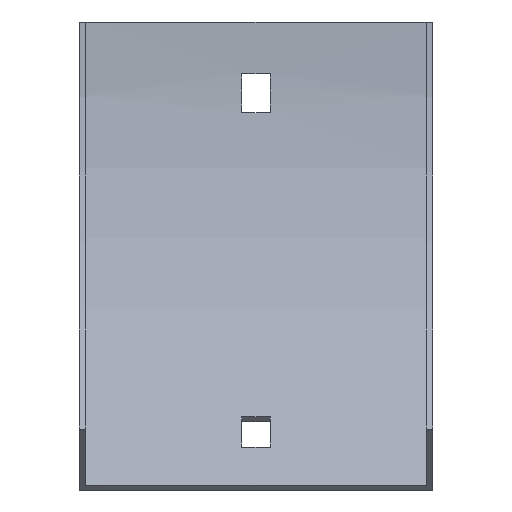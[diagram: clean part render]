
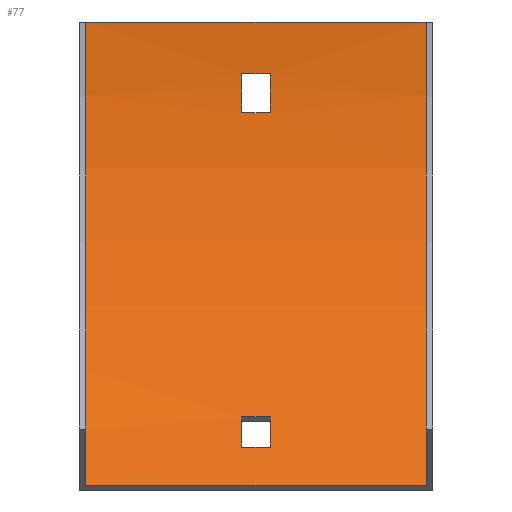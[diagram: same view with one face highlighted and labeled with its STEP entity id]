
A CAD part, front view. The second image highlights one B-rep face of the part: STEP entity #77.
In plain terms, the highlighted cylindrical face has radius 152 mm (diameter 304 mm), a partial arc.
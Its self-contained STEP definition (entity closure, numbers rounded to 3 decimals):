
#11 = EDGE_CURVE ( 'NONE', #442, #173, #510, .T. ) ;
#15 = ORIENTED_EDGE ( 'NONE', *, *, #387, .T. ) ;
#20 = CARTESIAN_POINT ( 'NONE',  ( 3.25, -1.974, -12. ) ) ;
#28 = ORIENTED_EDGE ( 'NONE', *, *, #287, .T. ) ;
#41 = ORIENTED_EDGE ( 'NONE', *, *, #359, .T. ) ;
#55 = VECTOR ( 'NONE', #165, 1000. ) ;
#62 = EDGE_LOOP ( 'NONE', ( #126, #105, #422, #276 ) ) ;
#73 = VERTEX_POINT ( 'NONE', #271 ) ;
#74 = CIRCLE ( 'NONE', #414, 152. ) ;
#77 = ADVANCED_FACE ( 'NONE', ( #457, #412, #364 ), #554, .F. ) ;
#78 = DIRECTION ( 'NONE',  ( 0., 0., -1. ) ) ;
#80 = DIRECTION ( 'NONE',  ( -1., 0., 0. ) ) ;
#89 = DIRECTION ( 'NONE',  ( 0., 0., -1. ) ) ;
#91 = VERTEX_POINT ( 'NONE', #184 ) ;
#102 = AXIS2_PLACEMENT_3D ( 'NONE', #357, #461, #547 ) ;
#105 = ORIENTED_EDGE ( 'NONE', *, *, #577, .F. ) ;
#108 = ORIENTED_EDGE ( 'NONE', *, *, #325, .T. ) ;
#118 = CARTESIAN_POINT ( 'NONE',  ( 3.25, -153.5, 0. ) ) ;
#126 = ORIENTED_EDGE ( 'NONE', *, *, #550, .F. ) ;
#132 = CIRCLE ( 'NONE', #102, 152. ) ;
#134 = AXIS2_PLACEMENT_3D ( 'NONE', #118, #491, #78 ) ;
#136 = CARTESIAN_POINT ( 'NONE',  ( 41., -153.5, 0. ) ) ;
#154 = CARTESIAN_POINT ( 'NONE',  ( -3.25, -37.87, -98.659 ) ) ;
#155 = VERTEX_POINT ( 'NONE', #154 ) ;
#159 = LINE ( 'NONE', #434, #505 ) ;
#160 = CARTESIAN_POINT ( 'NONE',  ( 41., -1.974, -12. ) ) ;
#163 = AXIS2_PLACEMENT_3D ( 'NONE', #303, #581, #590 ) ;
#164 = CIRCLE ( 'NONE', #395, 152. ) ;
#165 = DIRECTION ( 'NONE',  ( -1., 0., 0. ) ) ;
#173 = VERTEX_POINT ( 'NONE', #198 ) ;
#174 = DIRECTION ( 'NONE',  ( 1., 0., 0. ) ) ;
#183 = CARTESIAN_POINT ( 'NONE',  ( 39.5, -153.5, 0. ) ) ;
#184 = CARTESIAN_POINT ( 'NONE',  ( 39.5, -1.5, 0. ) ) ;
#198 = CARTESIAN_POINT ( 'NONE',  ( -39.5, -46.02, -107.48 ) ) ;
#206 = VECTOR ( 'NONE', #265, 1000. ) ;
#211 = DIRECTION ( 'NONE',  ( 1., 0., 0. ) ) ;
#215 = ORIENTED_EDGE ( 'NONE', *, *, #11, .F. ) ;
#218 = CARTESIAN_POINT ( 'NONE',  ( 39.5, -46.02, -107.48 ) ) ;
#220 = VECTOR ( 'NONE', #80, 1000. ) ;
#225 = LINE ( 'NONE', #415, #206 ) ;
#254 = CARTESIAN_POINT ( 'NONE',  ( 3.25, -37.87, -98.659 ) ) ;
#256 = LINE ( 'NONE', #346, #585 ) ;
#261 = EDGE_LOOP ( 'NONE', ( #28, #435, #41, #108 ) ) ;
#262 = EDGE_CURVE ( 'NONE', #394, #330, #159, .T. ) ;
#265 = DIRECTION ( 'NONE',  ( -1., 0., 0. ) ) ;
#266 = DIRECTION ( 'NONE',  ( -1., 0., 0. ) ) ;
#267 = VECTOR ( 'NONE', #266, 1000. ) ;
#271 = CARTESIAN_POINT ( 'NONE',  ( 3.25, -32.201, -91.6 ) ) ;
#273 = DIRECTION ( 'NONE',  ( -1., 0., 0. ) ) ;
#275 = CARTESIAN_POINT ( 'NONE',  ( -3.25, -2.958, -21. ) ) ;
#276 = ORIENTED_EDGE ( 'NONE', *, *, #262, .F. ) ;
#280 = ORIENTED_EDGE ( 'NONE', *, *, #399, .F. ) ;
#287 = EDGE_CURVE ( 'NONE', #575, #155, #493, .T. ) ;
#293 = CARTESIAN_POINT ( 'NONE',  ( 41., -37.87, -98.659 ) ) ;
#294 = DIRECTION ( 'NONE',  ( 0., 0., 1. ) ) ;
#295 = VERTEX_POINT ( 'NONE', #446 ) ;
#302 = VERTEX_POINT ( 'NONE', #478 ) ;
#303 = CARTESIAN_POINT ( 'NONE',  ( 3.25, -153.5, 0. ) ) ;
#325 = EDGE_CURVE ( 'NONE', #73, #575, #482, .T. ) ;
#330 = VERTEX_POINT ( 'NONE', #436 ) ;
#334 = ORIENTED_EDGE ( 'NONE', *, *, #445, .T. ) ;
#346 = CARTESIAN_POINT ( 'NONE',  ( 41., -32.201, -91.6 ) ) ;
#349 = CARTESIAN_POINT ( 'NONE',  ( -3.25, -153.5, 0. ) ) ;
#354 = VERTEX_POINT ( 'NONE', #487 ) ;
#357 = CARTESIAN_POINT ( 'NONE',  ( -39.5, -153.5, 0. ) ) ;
#359 = EDGE_CURVE ( 'NONE', #295, #73, #256, .T. ) ;
#364 = FACE_BOUND ( 'NONE', #261, .T. ) ;
#366 = DIRECTION ( 'NONE',  ( 1., 0., 0. ) ) ;
#387 = EDGE_CURVE ( 'NONE', #442, #91, #549, .T. ) ;
#394 = VERTEX_POINT ( 'NONE', #275 ) ;
#395 = AXIS2_PLACEMENT_3D ( 'NONE', #349, #488, #294 ) ;
#399 = EDGE_CURVE ( 'NONE', #173, #354, #132, .T. ) ;
#408 = CARTESIAN_POINT ( 'NONE',  ( -3.25, -153.5, 0. ) ) ;
#412 = FACE_OUTER_BOUND ( 'NONE', #463, .T. ) ;
#414 = AXIS2_PLACEMENT_3D ( 'NONE', #408, #174, #89 ) ;
#415 = CARTESIAN_POINT ( 'NONE',  ( 39.5, -1.5, 0. ) ) ;
#422 = ORIENTED_EDGE ( 'NONE', *, *, #593, .F. ) ;
#434 = CARTESIAN_POINT ( 'NONE',  ( 41., -2.958, -21. ) ) ;
#435 = ORIENTED_EDGE ( 'NONE', *, *, #467, .T. ) ;
#436 = CARTESIAN_POINT ( 'NONE',  ( 3.25, -2.958, -21. ) ) ;
#442 = VERTEX_POINT ( 'NONE', #501 ) ;
#445 = EDGE_CURVE ( 'NONE', #91, #354, #225, .T. ) ;
#446 = CARTESIAN_POINT ( 'NONE',  ( -3.25, -32.201, -91.6 ) ) ;
#457 = FACE_BOUND ( 'NONE', #62, .T. ) ;
#459 = DIRECTION ( 'NONE',  ( 0., 0., 1. ) ) ;
#461 = DIRECTION ( 'NONE',  ( 1., 0., 0. ) ) ;
#463 = EDGE_LOOP ( 'NONE', ( #280, #215, #15, #334 ) ) ;
#467 = EDGE_CURVE ( 'NONE', #155, #295, #74, .T. ) ;
#478 = CARTESIAN_POINT ( 'NONE',  ( -3.25, -1.974, -12. ) ) ;
#481 = AXIS2_PLACEMENT_3D ( 'NONE', #136, #273, #459 ) ;
#482 = CIRCLE ( 'NONE', #163, 152. ) ;
#487 = CARTESIAN_POINT ( 'NONE',  ( -39.5, -1.5, 0. ) ) ;
#488 = DIRECTION ( 'NONE',  ( -1., 0., 0. ) ) ;
#491 = DIRECTION ( 'NONE',  ( 1., 0., 0. ) ) ;
#493 = LINE ( 'NONE', #293, #220 ) ;
#497 = DIRECTION ( 'NONE',  ( 0., 0., 1. ) ) ;
#501 = CARTESIAN_POINT ( 'NONE',  ( 39.5, -46.02, -107.48 ) ) ;
#505 = VECTOR ( 'NONE', #211, 1000. ) ;
#510 = LINE ( 'NONE', #218, #267 ) ;
#518 = AXIS2_PLACEMENT_3D ( 'NONE', #183, #366, #497 ) ;
#520 = VERTEX_POINT ( 'NONE', #20 ) ;
#533 = DIRECTION ( 'NONE',  ( 1., 0., 0. ) ) ;
#537 = LINE ( 'NONE', #160, #55 ) ;
#547 = DIRECTION ( 'NONE',  ( 0., 0., 1. ) ) ;
#549 = CIRCLE ( 'NONE', #518, 152. ) ;
#550 = EDGE_CURVE ( 'NONE', #302, #394, #164, .T. ) ;
#552 = CIRCLE ( 'NONE', #134, 152. ) ;
#554 = CYLINDRICAL_SURFACE ( 'NONE', #481, 152. ) ;
#575 = VERTEX_POINT ( 'NONE', #254 ) ;
#577 = EDGE_CURVE ( 'NONE', #520, #302, #537, .T. ) ;
#581 = DIRECTION ( 'NONE',  ( -1., 0., 0. ) ) ;
#585 = VECTOR ( 'NONE', #533, 1000. ) ;
#590 = DIRECTION ( 'NONE',  ( 0., 0., 1. ) ) ;
#593 = EDGE_CURVE ( 'NONE', #330, #520, #552, .T. ) ;
